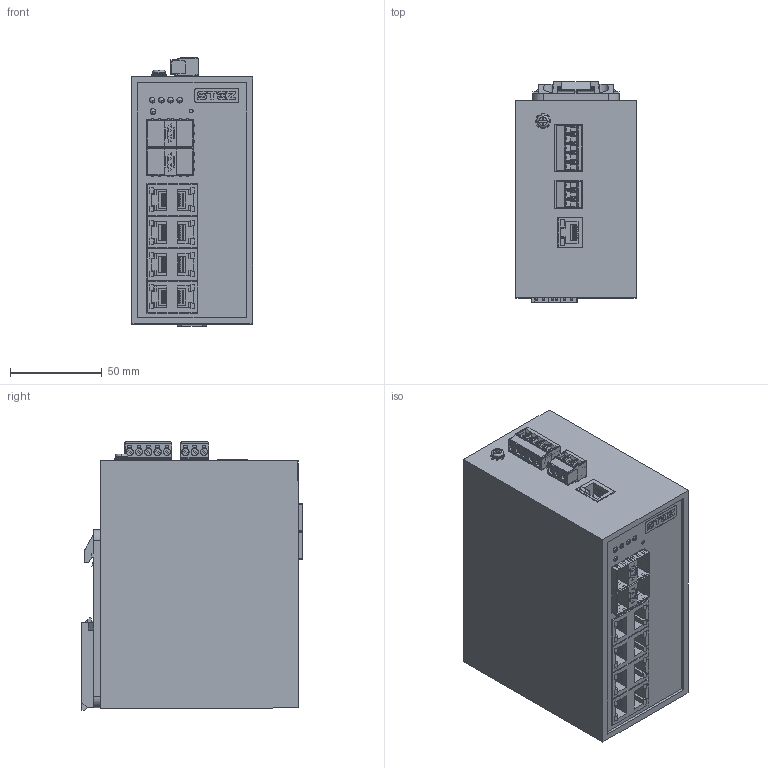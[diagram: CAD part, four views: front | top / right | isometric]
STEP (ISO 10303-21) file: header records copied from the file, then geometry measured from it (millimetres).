
FILE_DESCRIPTION(('TFLEX Exchange Step'),'2;1');
FILE_NAME('70110038_STEZ3208-4GSFP-PN.stp', '2025-08-27T11:25:23+03:00',('YLedovskikh'),('Unknown organisation'),'TFLEX Exchange 2023.2','T-FLEX CAD','Unknown authorisation');
FILE_SCHEMA( ('AUTOMOTIVE_DESIGN { 1 0 10303 214 1 1 1 1 }') );
Length unit declared in the file: millimetre
Products named in the file (1): Тело_15 :1
Bounding box: 66.06 x 120.31 x 146.4 mm (x, y, z)
Volume: 943259.3 mm3; surface area: 125213.3 mm2
Topology: 3 solids, 29 shells, 2948 faces, 8610 edges, 5700 vertices
Faces by surface type: plane 2128, cylinder 586, bspline 160, cone 32, sphere 22, extrusion 16, torus 4
Full cylindrical faces by diameter (mm): 2 x1, 3 x8, 3.1 x5, 3.821 x8, 4 x9, 4.4 x1, 6.8 x1
Entity records: 100749 total; most frequent: CARTESIAN_POINT 21027, ORIENTED_EDGE 17184, DIRECTION 14974, EDGE_CURVE 8592, VECTOR 6540, LINE 6524, VERTEX_POINT 5696, AXIS2_PLACEMENT_3D 4217
